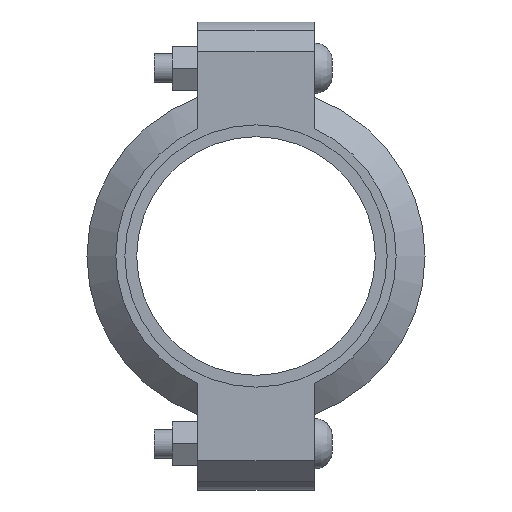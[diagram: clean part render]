
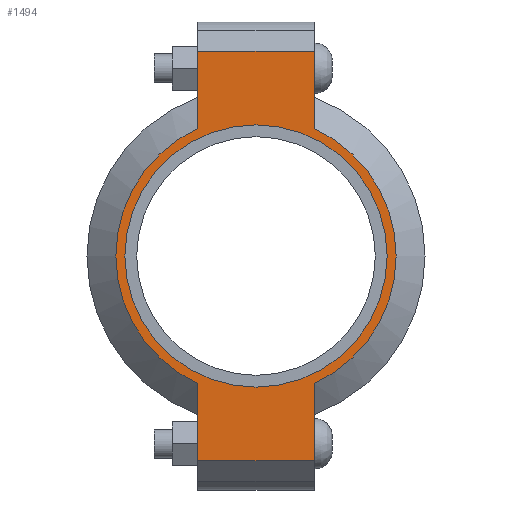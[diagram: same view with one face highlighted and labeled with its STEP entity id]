
A CAD part, left-side view. The second image highlights one B-rep face of the part: STEP entity #1494.
In plain terms, the highlighted planar face has unit normal (-1, 0, 0) as drawn and (0, 0, 1) by its records, which use the part's own axes.
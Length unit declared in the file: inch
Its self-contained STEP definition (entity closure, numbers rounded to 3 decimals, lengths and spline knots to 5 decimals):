
#118=LINE('',#2616,#211);
#126=LINE('',#2652,#219);
#133=LINE('',#2673,#226);
#142=LINE('',#2705,#235);
#143=LINE('',#2709,#236);
#144=LINE('',#2711,#237);
#211=VECTOR('',#2144,0.3937);
#219=VECTOR('',#2160,0.3937);
#226=VECTOR('',#2179,0.3937);
#235=VECTOR('',#2204,0.3937);
#236=VECTOR('',#2209,0.3937);
#237=VECTOR('',#2210,0.3937);
#293=FACE_BOUND('',#471,.T.);
#365=FACE_OUTER_BOUND('',#470,.T.);
#470=EDGE_LOOP('',(#1235,#1236,#1237,#1238,#1239,#1240,#1241,#1242));
#471=EDGE_LOOP('',(#1243));
#543=CIRCLE('',#1722,2.25);
#569=CIRCLE('',#1781,2.405);
#570=CIRCLE('',#1782,2.405);
#635=VERTEX_POINT('',#2432);
#678=VERTEX_POINT('',#2613);
#679=VERTEX_POINT('',#2615);
#690=VERTEX_POINT('',#2647);
#691=VERTEX_POINT('',#2651);
#698=VERTEX_POINT('',#2670);
#699=VERTEX_POINT('',#2672);
#709=VERTEX_POINT('',#2708);
#710=VERTEX_POINT('',#2710);
#791=EDGE_CURVE('',#635,#635,#543,.T.);
#852=EDGE_CURVE('',#679,#678,#118,.T.);
#866=EDGE_CURVE('',#691,#690,#126,.T.);
#876=EDGE_CURVE('',#699,#698,#133,.T.);
#891=EDGE_CURVE('',#691,#678,#142,.T.);
#892=EDGE_CURVE('',#690,#699,#569,.T.);
#893=EDGE_CURVE('',#709,#698,#143,.T.);
#894=EDGE_CURVE('',#709,#710,#144,.T.);
#895=EDGE_CURVE('',#710,#679,#570,.T.);
#1235=ORIENTED_EDGE('',*,*,#891,.F.);
#1236=ORIENTED_EDGE('',*,*,#866,.T.);
#1237=ORIENTED_EDGE('',*,*,#892,.T.);
#1238=ORIENTED_EDGE('',*,*,#876,.T.);
#1239=ORIENTED_EDGE('',*,*,#893,.F.);
#1240=ORIENTED_EDGE('',*,*,#894,.T.);
#1241=ORIENTED_EDGE('',*,*,#895,.T.);
#1242=ORIENTED_EDGE('',*,*,#852,.T.);
#1243=ORIENTED_EDGE('',*,*,#791,.T.);
#1336=PLANE('',#1780);
#1494=ADVANCED_FACE('',(#365,#293),#1336,.T.);
#1722=AXIS2_PLACEMENT_3D('',#2434,#2020,#2021);
#1780=AXIS2_PLACEMENT_3D('',#2706,#2205,#2206);
#1781=AXIS2_PLACEMENT_3D('',#2707,#2207,#2208);
#1782=AXIS2_PLACEMENT_3D('',#2712,#2211,#2212);
#2020=DIRECTION('center_axis',(0.,0.,-1.));
#2021=DIRECTION('ref_axis',(1.,0.,0.));
#2144=DIRECTION('',(1.,0.,0.));
#2160=DIRECTION('',(-1.,0.,0.));
#2179=DIRECTION('',(-1.,0.,0.));
#2204=DIRECTION('',(0.,-1.,0.));
#2205=DIRECTION('center_axis',(0.,0.,1.));
#2206=DIRECTION('ref_axis',(-1.,0.,0.));
#2207=DIRECTION('center_axis',(0.,0.,1.));
#2208=DIRECTION('ref_axis',(1.,0.,0.));
#2209=DIRECTION('',(0.,1.,0.));
#2210=DIRECTION('',(1.,0.,0.));
#2211=DIRECTION('center_axis',(0.,0.,1.));
#2212=DIRECTION('ref_axis',(1.,0.,0.));
#2432=CARTESIAN_POINT('',(-2.25,0.,1.065));
#2434=CARTESIAN_POINT('Origin',(0.,0.,1.065));
#2613=CARTESIAN_POINT('',(3.515,-1.,1.065));
#2615=CARTESIAN_POINT('',(2.18724,-1.,1.065));
#2616=CARTESIAN_POINT('',(4.015,-1.,1.065));
#2647=CARTESIAN_POINT('',(2.18724,1.,1.065));
#2651=CARTESIAN_POINT('',(3.515,1.,1.065));
#2652=CARTESIAN_POINT('',(-4.015,1.,1.065));
#2670=CARTESIAN_POINT('',(-3.515,1.,1.065));
#2672=CARTESIAN_POINT('',(-2.18724,1.,1.065));
#2673=CARTESIAN_POINT('',(-4.015,1.,1.065));
#2705=CARTESIAN_POINT('',(3.515,-0.5,1.065));
#2706=CARTESIAN_POINT('Origin',(0.,0.,
1.065));
#2707=CARTESIAN_POINT('Origin',(0.,0.,1.065));
#2708=CARTESIAN_POINT('',(-3.515,-1.,1.065));
#2709=CARTESIAN_POINT('',(-3.515,0.5,1.065));
#2710=CARTESIAN_POINT('',(-2.18724,-1.,1.065));
#2711=CARTESIAN_POINT('',(4.015,-1.,1.065));
#2712=CARTESIAN_POINT('Origin',(0.,0.,1.065));
